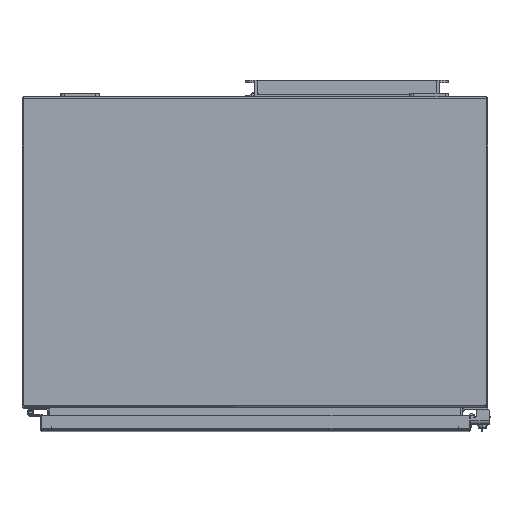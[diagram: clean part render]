
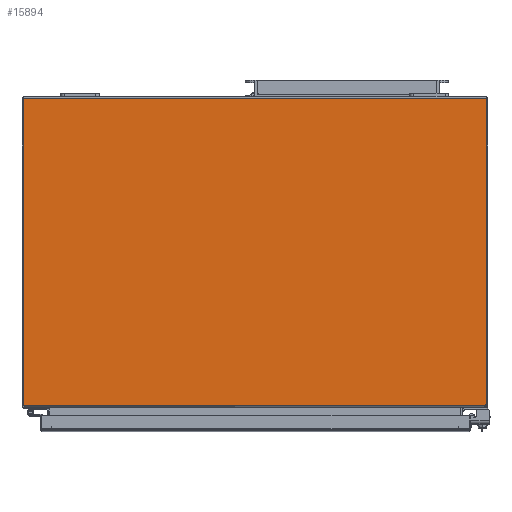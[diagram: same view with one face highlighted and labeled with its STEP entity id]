
A CAD part, top view. The second image highlights one B-rep face of the part: STEP entity #15894.
In plain terms, the highlighted planar face has unit normal (0, 0, 1).
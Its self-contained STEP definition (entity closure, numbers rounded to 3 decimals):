
#2211=LINE('',#29146,#3674);
#2215=LINE('',#29155,#3678);
#2218=LINE('',#29162,#3681);
#2222=LINE('',#29169,#3685);
#3674=VECTOR('',#21280,1000.);
#3678=VECTOR('',#21288,1000.);
#3681=VECTOR('',#21293,1000.);
#3685=VECTOR('',#21299,1000.);
#8388=ORIENTED_EDGE('',*,*,#10654,.F.);
#8389=ORIENTED_EDGE('',*,*,#10653,.F.);
#8390=ORIENTED_EDGE('',*,*,#10646,.F.);
#8391=ORIENTED_EDGE('',*,*,#10649,.T.);
#8392=ORIENTED_EDGE('',*,*,#10657,.F.);
#8393=ORIENTED_EDGE('',*,*,#10642,.T.);
#10642=EDGE_CURVE('',#12102,#12108,#2211,.T.);
#10646=EDGE_CURVE('',#12111,#12112,#2215,.T.);
#10649=EDGE_CURVE('',#12111,#12114,#2218,.T.);
#10653=EDGE_CURVE('',#12112,#12116,#2222,.T.);
#10654=EDGE_CURVE('',#12116,#12108,#12608,.T.);
#10657=EDGE_CURVE('',#12102,#12114,#12611,.T.);
#12102=VERTEX_POINT('',#29057);
#12108=VERTEX_POINT('',#29139);
#12111=VERTEX_POINT('',#29154);
#12112=VERTEX_POINT('',#29156);
#12114=VERTEX_POINT('',#29161);
#12116=VERTEX_POINT('',#29167);
#12608=CIRCLE('',#17295,6.35);
#12611=CIRCLE('',#17300,6.35);
#13536=EDGE_LOOP('',(#8388,#8389,#8390,#8391,#8392,#8393));
#14489=FACE_BOUND('',#13536,.T.);
#15055=PLANE('',#17301);
#15894=ADVANCED_FACE('',(#14489),#15055,.T.);
#17295=AXIS2_PLACEMENT_3D('',#29171,#21302,#21303);
#17300=AXIS2_PLACEMENT_3D('',#29176,#21312,#21313);
#17301=AXIS2_PLACEMENT_3D('',#29177,#21314,#21315);
#21280=DIRECTION('',(1.,0.,0.));
#21288=DIRECTION('',(1.,0.,0.));
#21293=DIRECTION('',(0.,-1.,0.));
#21299=DIRECTION('',(0.,-1.,0.));
#21302=DIRECTION('',(0.,0.,-1.));
#21303=DIRECTION('',(-1.,0.,0.));
#21312=DIRECTION('',(0.,0.,-1.));
#21313=DIRECTION('',(1.,0.,0.));
#21314=DIRECTION('',(0.,0.,1.));
#21315=DIRECTION('',(0.,-1.,0.));
#29057=CARTESIAN_POINT('',(-302.22,-199.542,0.));
#29139=CARTESIAN_POINT('',(302.22,-199.542,0.));
#29146=CARTESIAN_POINT('',(-302.971,-199.542,0.));
#29154=CARTESIAN_POINT('',(-302.971,202.286,0.));
#29155=CARTESIAN_POINT('',(-302.971,202.286,0.));
#29156=CARTESIAN_POINT('',(302.971,202.286,0.));
#29161=CARTESIAN_POINT('',(-302.971,-196.546,0.));
#29162=CARTESIAN_POINT('',(-302.971,202.286,0.));
#29167=CARTESIAN_POINT('',(302.971,-196.546,0.));
#29169=CARTESIAN_POINT('',(302.971,202.286,0.));
#29171=CARTESIAN_POINT('',(296.621,-196.546,0.));
#29176=CARTESIAN_POINT('',(-296.621,-196.546,0.));
#29177=CARTESIAN_POINT('',(-302.971,202.286,0.));
